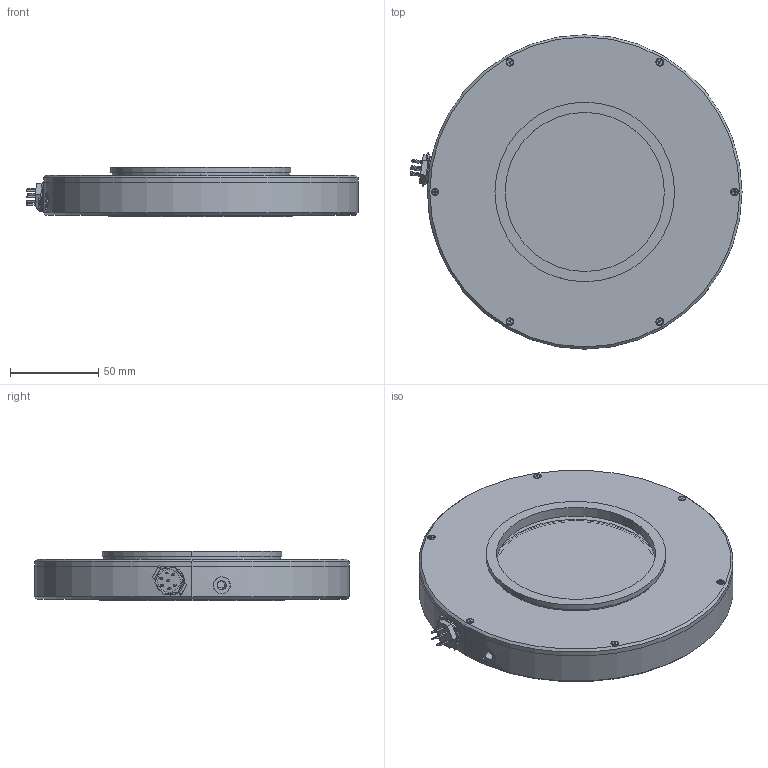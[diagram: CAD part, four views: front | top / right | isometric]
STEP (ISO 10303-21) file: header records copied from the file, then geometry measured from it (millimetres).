
FILE_DESCRIPTION (( 'STEP AP214' ), '1' );
FILE_NAME ('CS90HS HOUSE dumb.STEP', '2013-07-17T15:18:58', ( 'helen' ), ( 'Microsoft' ), 'SwSTEP 2.0', 'SolidWorks 2010', '' );
FILE_SCHEMA (( 'AUTOMOTIVE_DESIGN' ));
Length unit declared in the file: inch
Products named in the file (1): CS90HS HOUSE dumb
Bounding box: 187.73 x 177.8 x 27.84 mm (x, y, z)
Volume: 210237.1 mm3; surface area: 121846.5 mm2
Topology: 11 solids, 11 shells, 816 faces, 1994 edges, 1224 vertices
Faces by surface type: cone 319, cylinder 284, plane 199, torus 14
Entity records: 35326 total; most frequent: CARTESIAN_POINT 4685, DIRECTION 4562, ORIENTED_EDGE 3964, EDGE_CURVE 1982, AXIS2_PLACEMENT_3D 1817, VERTEX_POINT 1224, CIRCLE 1000, VECTOR 928
